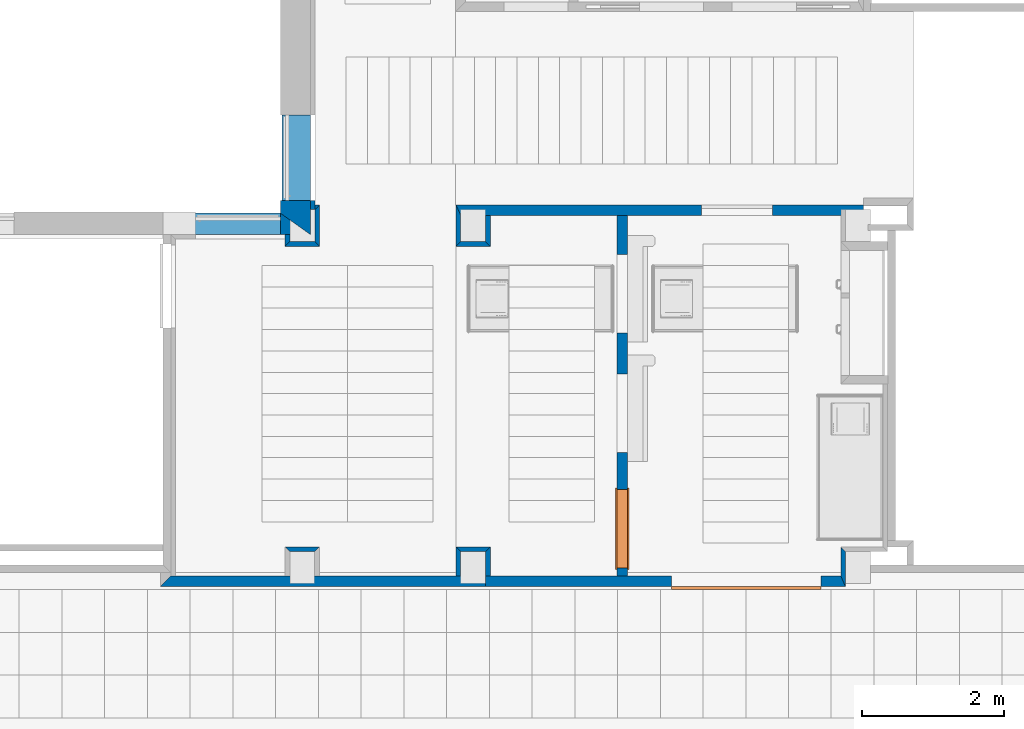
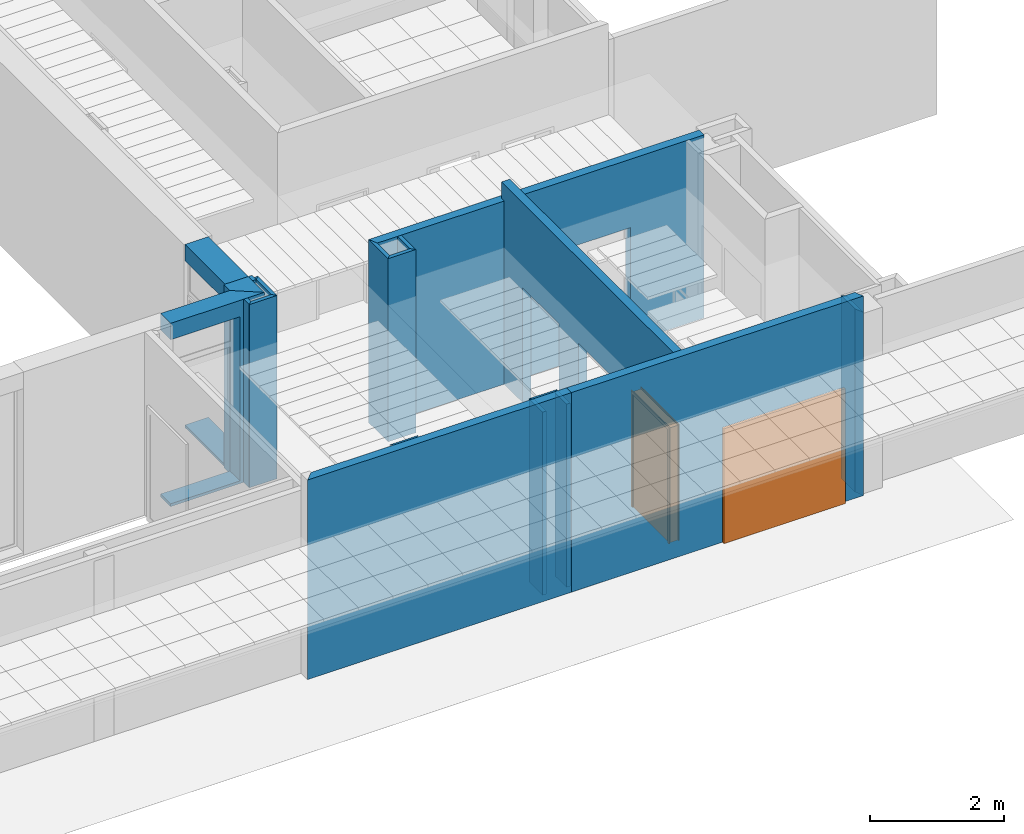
# One storey, part 41 of 60: 20 walls, 2 proxies, 7 openings.
"""IFC2X3 building model written with IfcOpenShell, lengths in millimetres."""

from ifc_helpers import new_model, entity, si_unit, converted_unit, derived_unit, money_unit, direction, frame, origin_with_axes, origin_2d_with_axis, place, context, subcontext, project, spatial, polyline, rectangle, outline, extrude, faceted_brep, source, transform, mapped, material, layer, layer_set, layer_usage, type_object, element, fill, save


model = new_model("IFC2X3")

# Units and contexts
model_context = context("Model", 3, precision=0.01, world=origin_with_axes(), true_north=direction((0.0, 1.0)))
body_context = subcontext(model_context, "Body", "Model", "MODEL_VIEW")
ifc_project = project(units=[si_unit("LENGTHUNIT", "METRE", prefix="MILLI"), si_unit("AREAUNIT", "SQUARE_METRE"), si_unit("VOLUMEUNIT", "CUBIC_METRE"), converted_unit("PLANEANGLEUNIT", "DEGREE", entity("IfcPlaneAngleMeasure", 0.0174532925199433), si_unit("PLANEANGLEUNIT", "RADIAN"), dimensions=[0, 0, 0, 0, 0, 0, 0]), money_unit("USD"), converted_unit("TIMEUNIT", "Year", entity("IfcTimeMeasure", 31557600.0), si_unit("TIMEUNIT", "SECOND"), dimensions=[0, 0, 1, 0, 0, 0, 0]), si_unit("MASSUNIT", "GRAM", prefix="KILO"), si_unit("THERMODYNAMICTEMPERATUREUNIT", "DEGREE_CELSIUS"), si_unit("LUMINOUSINTENSITYUNIT", "LUMEN"), si_unit("ENERGYUNIT", "JOULE", prefix="MEGA"), derived_unit("THERMALCONDUCTANCEUNIT", [(si_unit("POWERUNIT", "WATT"), 1), (si_unit("LENGTHUNIT", "METRE"), -1), (si_unit("THERMODYNAMICTEMPERATUREUNIT", "KELVIN"), -1)]), derived_unit("SPECIFICHEATCAPACITYUNIT", [(si_unit("ENERGYUNIT", "JOULE"), 1), (si_unit("MASSUNIT", "GRAM", prefix="KILO"), -1), (si_unit("THERMODYNAMICTEMPERATUREUNIT", "KELVIN"), -1)]), derived_unit("MASSDENSITYUNIT", [(si_unit("MASSUNIT", "GRAM", prefix="KILO"), 1), (si_unit("VOLUMEUNIT", "CUBIC_METRE"), -1)])], contexts=[model_context])

# Site, building, storey
site_placement = place(None, origin_with_axes())
site = spatial("IfcSite", under=ifc_project, at=site_placement, Name="Sitio", CompositionType="ELEMENT")
building_placement = place(site_placement, origin_with_axes())
building = spatial("IfcBuilding", under=site, at=building_placement, Name="Construcción", CompositionType="ELEMENT")
storey_placement = place(building_placement, frame((0.0, 0.0, 3650.0), z_axis=(0.0, 0.0, 1.0), x_axis=(1.0, 0.0, 0.0)))
storey = spatial("IfcBuildingStorey", under=building, at=storey_placement, Name="PLANTA 2ª", CompositionType="ELEMENT", Elevation=3650.0)

# Wall, opening
ifc_material_1 = material(Name="ARQ_AM246_Arrebossat_De_Guix")
ifc_layer_1 = layer(ifc_material_1, 20.0, ventilated="UNKNOWN")
ifc_material_2 = material(Name="ARQ_CE217_Gero")
ifc_layer_2 = layer(ifc_material_2, 110.0, ventilated="UNKNOWN")
ifc_material_3 = material(Name="ARQ_AI031_Aillament_Poliestireno expandido EPS")
ifc_layer_3 = layer(ifc_material_3, 100.0, ventilated="UNKNOWN")
ifc_material_4 = material(Name="ARQ_CE218_Ceramic")
ifc_layer_4 = layer(ifc_material_4, 50.0, ventilated="UNKNOWN")
ifc_layer_5 = layer(ifc_material_1, 20.0, ventilated="UNKNOWN")
ifc_layer_set_1 = layer_set([ifc_layer_1, ifc_layer_2, ifc_layer_3, ifc_layer_4, ifc_layer_5], Name="façana pati CR3 (ampit)")
ifc_layer_usage_1 = layer_usage(ifc_layer_set_1, "AXIS2", "POSITIVE", -300.0000000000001)
wall_type_1 = type_object("IfcWallType", Name="façana pati CR3 (ampit) 300", PredefinedType="NOTDEFINED")
wall_1_placement = place(storey_placement, frame((-1681.109004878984, -12338.97582371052, 0.0), z_axis=(0.0, 0.0, 1.0), x_axis=(-1.0, 0.0, 0.0)))
wall_1 = element("IfcWallStandardCase", 1, at=wall_1_placement, inside=storey, type_object=wall_type_1, material=ifc_layer_usage_1, Name="MS-201", context=body_context, shape_type="SweptSolid", body=[
    extrude(outline(polyline([(419.9999999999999, -300.0000000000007), (1620.000000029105, -300.0000000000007), (1620.000000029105, 0.0), (0.0, 0.0), (419.9999999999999, -300.0000000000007)])), origin_with_axes(), (0.0, 0.0, 1.0), 3350.0),
])
opening_1_placement = place(wall_1_placement, frame((1020.000000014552, 0.0, 49.99999999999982), z_axis=(0.0, 0.0, 1.0), x_axis=(1.0, 0.0, 0.0)))
element("IfcOpeningElement", 2, at=opening_1_placement, cuts=wall_1, Name="F01", context=body_context, shape_type="SweptSolid", body=[
    extrude(rectangle(XDim=1200.000000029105, YDim=3000.0, at=origin_2d_with_axis()), frame((0.0, -250.0, 1500.0), z_axis=(0.0, -1.0, 0.0), x_axis=(-1.0, 0.0, 0.0)), (0.0, 0.0, -1.0), 550.0),
    extrude(rectangle(XDim=1200.000000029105, YDim=3000.0, at=origin_2d_with_axis()), frame((0.0, -250.0, 1500.0), z_axis=(0.0, 1.0, 0.0), x_axis=(-1.0, 0.0, 0.0)), (0.0, 0.0, -1.0), 350.0000000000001),
])

# Wall
ifc_layer_6 = layer(ifc_material_2, 150.0, ventilated="UNKNOWN")
ifc_layer_7 = layer(ifc_material_3, 180.0, ventilated="UNKNOWN")
ifc_layer_8 = layer(ifc_material_4, 80.0, ventilated="UNKNOWN")
ifc_layer_9 = layer(ifc_material_1, 10.0, ventilated="UNKNOWN")
ifc_layer_set_2 = layer_set([ifc_layer_6, ifc_layer_7, ifc_layer_8, ifc_layer_9], Name="façana pati CR1")
ifc_layer_usage_2 = layer_usage(ifc_layer_set_2, "AXIS2", "POSITIVE", -420.0)
wall_type_2 = type_object("IfcWallType", Name="façana pati CR1 420", PredefinedType="NOTDEFINED")
wall_2_placement = place(storey_placement, frame((-1681.109004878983, -11858.97582371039, 0.0), z_axis=(0.0, 0.0, 1.0), x_axis=(0.0, -1.0, 0.0)))
element("IfcWallStandardCase", 3, at=wall_2_placement, inside=storey, type_object=wall_type_2, material=ifc_layer_usage_2, Name="MS-200", context=body_context, shape_type="SweptSolid", body=[
    extrude(outline(polyline([(0.0, -420.0000000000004), (180.0000000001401, -419.9999999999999), (480.000000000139, 0.0), (0.0, 0.0), (0.0, -420.0000000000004)])), origin_with_axes(), (0.0, 0.0, 1.0), 3350.0),
])

# Wall, opening
ifc_layer_10 = layer(ifc_material_1, 10.0, ventilated="UNKNOWN")
ifc_layer_11 = layer(ifc_material_2, 150.0, ventilated="UNKNOWN")
ifc_layer_12 = layer(ifc_material_3, 150.0, ventilated="UNKNOWN")
ifc_layer_13 = layer(ifc_material_4, 80.0, ventilated="UNKNOWN")
ifc_layer_14 = layer(ifc_material_1, 10.0, ventilated="UNKNOWN")
ifc_layer_set_3 = layer_set([ifc_layer_10, ifc_layer_11, ifc_layer_12, ifc_layer_13, ifc_layer_14], Name="façana pati CR1 (ampit)")
ifc_layer_usage_3 = layer_usage(ifc_layer_set_3, "AXIS2", "POSITIVE", -400.0)
wall_type_3 = type_object("IfcWallType", Name="façana pati CR1 (ampit) 400", PredefinedType="NOTDEFINED")
wall_3_placement = place(storey_placement, frame((-1681.109004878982, -10658.9758237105, 0.0), z_axis=(0.0, 0.0, 1.0), x_axis=(0.0, -1.0, 0.0)))
wall_3 = element("IfcWallStandardCase", 4, at=wall_3_placement, inside=storey, type_object=wall_type_3, material=ifc_layer_usage_3, Name="MS-199", context=body_context, shape_type="SweptSolid", body=[
    extrude(outline(polyline([(0.0, -399.9999999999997), (1199.999999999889, -400.0000000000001), (1199.999999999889, 0.0), (0.0, 0.0), (0.0, -399.9999999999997)])), origin_with_axes(), (0.0, 0.0, 1.0), 3350.0),
])
opening_2_placement = place(wall_3_placement, frame((599.9999999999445, 0.0, 49.99999999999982), z_axis=(0.0, 0.0, 1.0), x_axis=(1.0, 0.0, 0.0)))
element("IfcOpeningElement", 5, at=opening_2_placement, cuts=wall_3, Name="F01", context=body_context, shape_type="SweptSolid", body=[
    extrude(rectangle(XDim=1199.999999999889, YDim=3000.0, at=origin_2d_with_axis()), frame((0.0, -350.0000000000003, 1500.0), z_axis=(0.0, -1.0, 0.0), x_axis=(-1.0, 0.0, 0.0)), (0.0, 0.0, -1.0), 750.0),
    extrude(rectangle(XDim=1199.999999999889, YDim=3000.0, at=origin_2d_with_axis()), frame((0.0, -350.0000000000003, 1500.0), z_axis=(0.0, 1.0, 0.0), x_axis=(-1.0, 0.0, 0.0)), (0.0, 0.0, -1.0), 450.0),
])

# Walls
ifc_material_5 = material(Name="ARQ_FU093_Panellat_HPL")
ifc_layer_15 = layer(ifc_material_5, 6.0, ventilated="UNKNOWN")
ifc_material_6 = material(Name="ARQ_EN271_Camara_Aire")
ifc_layer_16 = layer(ifc_material_6, 6.0, ventilated="UNKNOWN")
ifc_material_7 = material(Name="Panel de Yeso Laminado")
ifc_layer_17 = layer(ifc_material_7, 13.0, ventilated="UNKNOWN")
ifc_material_8 = material(Name="ARQ_AI033_Aillament_Llana_De_Roca")
ifc_layer_18 = layer(ifc_material_8, 40.0, ventilated="UNKNOWN")
ifc_layer_set_4 = layer_set([ifc_layer_15, ifc_layer_16, ifc_layer_17, ifc_layer_18], Name="Pladur Tras 40 / 1N +HPL")
ifc_layer_usage_4 = layer_usage(ifc_layer_set_4, "AXIS2", "POSITIVE", 0.0)
wall_type_4 = type_object("IfcWallType", Name="Pladur Tras 40 / 1N +HPL 65", PredefinedType="NOTDEFINED")
wall_4_placement = place(storey_placement, frame((-1552.894145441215, -12503.97598839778, 0.0), z_axis=(0.0, 0.0, 1.0), x_axis=(0.0, 1.0, 0.0)))
element("IfcWallStandardCase", 6, at=wall_4_placement, inside=storey, type_object=wall_type_4, material=ifc_layer_usage_4, Name="MS-212", context=body_context, shape_type="SweptSolid", body=[
    extrude(outline(polyline([(0.0, 0.0), (580.0020821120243, 0.0), (515.0020821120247, 64.99999999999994), (64.9999999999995, 64.99999999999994), (0.0, 0.0)])), origin_with_axes(), (0.0, 0.0, 1.0), 3350.0),
])
ifc_layer_usage_5 = layer_usage(ifc_layer_set_4, "AXIS2", "POSITIVE", 0.0)
wall_5_placement = place(storey_placement, frame((-1616.109004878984, -11988.97582324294, 0.0), z_axis=(0.0, 0.0, 1.0), x_axis=(0.0, 1.0, 0.0)))
element("IfcWallStandardCase", 7, at=wall_5_placement, inside=storey, type_object=wall_type_4, material=ifc_layer_usage_5, Name="MS-212", context=body_context, shape_type="SweptSolid", body=[
    extrude(outline(polyline([(0.0, 0.0), (129.9999995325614, 0.0), (129.9999995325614, 64.99999999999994), (0.0, 64.99999999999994), (0.0, 0.0)])), origin_with_axes(), (0.0, 0.0, 1.0), 3350.0),
])
ifc_layer_usage_6 = layer_usage(ifc_layer_set_4, "AXIS2", "POSITIVE", 0.0)
wall_6_placement = place(storey_placement, frame((-1552.894145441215, -11923.97390628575, 0.0), z_axis=(0.0, 0.0, 1.0), x_axis=(-1.0, 0.0, 0.0)))
element("IfcWallStandardCase", 8, at=wall_6_placement, inside=storey, type_object=wall_type_4, material=ifc_layer_usage_6, Name="MS-212", context=body_context, shape_type="SweptSolid", body=[
    extrude(outline(polyline([(63.2148594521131, 64.9999999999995), (0.0, 0.0), (63.2148594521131, 0.0), (63.2148594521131, 64.9999999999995)])), origin_with_axes(), (0.0, 0.0, 1.0), 3350.0),
])
ifc_layer_usage_7 = layer_usage(ifc_layer_set_4, "AXIS2", "POSITIVE", -65.0)
wall_7_placement = place(storey_placement, frame((778.891051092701, -17276.97565901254, 0.0), z_axis=(0.0, 0.0, 1.0), x_axis=(0.0, 1.0, 0.0)))
element("IfcWallStandardCase", 9, at=wall_7_placement, inside=storey, type_object=wall_type_4, material=ifc_layer_usage_7, Name="MS-226", context=body_context, shape_type="SweptSolid", body=[
    extrude(outline(polyline([(146.0000000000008, -64.99999999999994), (553.0000006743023, -64.99999999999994), (488.0000006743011, 0.0), (146.0000000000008, 0.0), (146.0000000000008, -64.99999999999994)])), origin_with_axes(), (0.0, 0.0, 1.0), 3350.0),
])
ifc_layer_usage_8 = layer_usage(ifc_layer_set_4, "AXIS2", "POSITIVE", -65.0)
wall_8_placement = place(storey_placement, frame((428.8909985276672, -16788.97565833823, 0.0), z_axis=(0.0, 0.0, 1.0), x_axis=(0.0, -1.0, 0.0)))
element("IfcWallStandardCase", 10, at=wall_8_placement, inside=storey, type_object=wall_type_4, material=ifc_layer_usage_8, Name="MS-228", context=body_context, shape_type="SweptSolid", body=[
    extrude(outline(polyline([(-65.00000000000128, -65.0), (342.0000006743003, -65.0), (342.0000006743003, 0.0), (0.0, 0.0), (-65.00000000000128, -65.0)])), origin_with_axes(), (0.0, 0.0, 1.0), 3350.0),
])
ifc_layer_usage_9 = layer_usage(ifc_layer_set_4, "AXIS2", "POSITIVE", -65.0)
wall_9_placement = place(storey_placement, frame((778.891051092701, -16788.97565833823, 0.0), z_axis=(0.0, 0.0, 1.0), x_axis=(-1.0, 0.0, 0.0)))
element("IfcWallStandardCase", 11, at=wall_9_placement, inside=storey, type_object=wall_type_4, material=ifc_layer_usage_9, Name="MS-227", context=body_context, shape_type="SweptSolid", body=[
    extrude(outline(polyline([(-64.99999999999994, -65.00000000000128), (415.0000525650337, -65.00000000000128), (350.0000525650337, 0.0), (0.0, 0.0), (-64.99999999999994, -65.00000000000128)])), origin_with_axes(), (0.0, 0.0, 1.0), 3350.0),
])
ifc_layer_usage_10 = layer_usage(ifc_layer_set_4, "AXIS2", "POSITIVE", 0.0)
wall_10_placement = place(storey_placement, frame((-2036.109006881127, -12338.97582371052, 0.0), z_axis=(0.0, 0.0, 1.0), x_axis=(0.0, -1.0, 0.0)))
element("IfcWallStandardCase", 12, at=wall_10_placement, inside=storey, type_object=wall_type_4, material=ifc_layer_usage_10, Name="MS-212", context=body_context, shape_type="SweptSolid", body=[
    extrude(outline(polyline([(0.0, 0.0), (165.000164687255, 0.0), (100.0001646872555, 64.99999999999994), (0.0, 64.99999999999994), (0.0, 0.0)])), origin_with_axes(), (0.0, 0.0, 1.0), 3350.0),
])
ifc_layer_usage_11 = layer_usage(ifc_layer_set_4, "AXIS2", "POSITIVE", 0.0)
wall_11_placement = place(storey_placement, frame((-2036.109006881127, -12503.97598839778, 0.0), z_axis=(0.0, 0.0, 1.0), x_axis=(1.0, 0.0, 0.0)))
element("IfcWallStandardCase", 13, at=wall_11_placement, inside=storey, type_object=wall_type_4, material=ifc_layer_usage_11, Name="MS-212", context=body_context, shape_type="SweptSolid", body=[
    extrude(outline(polyline([(0.0, 0.0), (483.2148614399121, 0.0), (418.2148614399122, 64.9999999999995), (64.99999999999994, 64.9999999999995), (0.0, 0.0)])), origin_with_axes(), (0.0, 0.0, 1.0), 3350.0),
])
ifc_layer_usage_12 = layer_usage(ifc_layer_set_4, "AXIS2", "POSITIVE", -65.0)
wall_12_placement = place(storey_placement, frame((428.8909950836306, -12069.97582371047, 0.0), z_axis=(0.0, 0.0, 1.0), x_axis=(0.0, -1.0, 0.0)))
element("IfcWallStandardCase", 14, at=wall_12_placement, inside=storey, type_object=wall_type_4, material=ifc_layer_usage_12, Name="MS-226", context=body_context, shape_type="SweptSolid", body=[
    extrude(outline(polyline([(-146.0000000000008, -65.0), (433.9999999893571, -65.0), (368.9999999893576, 0.0), (0.0, 0.0), (-146.0000000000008, -65.0)])), origin_with_axes(), (0.0, 0.0, 1.0), 3350.0),
])
ifc_layer_usage_13 = layer_usage(ifc_layer_set_4, "AXIS2", "POSITIVE", -65.0)
wall_13_placement = place(storey_placement, frame((428.8909950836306, -12438.97582369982, 0.0), z_axis=(0.0, 0.0, 1.0), x_axis=(1.0, 0.0, 0.0)))
element("IfcWallStandardCase", 15, at=wall_13_placement, inside=storey, type_object=wall_type_4, material=ifc_layer_usage_13, Name="MS-227", context=body_context, shape_type="SweptSolid", body=[
    extrude(outline(polyline([(-65.0, -64.9999999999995), (415.0000525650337, -64.9999999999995), (350.0000525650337, 0.0), (0.0, 0.0), (-65.0, -64.9999999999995)])), origin_with_axes(), (0.0, 0.0, 1.0), 3350.0),
])
ifc_layer_usage_14 = layer_usage(ifc_layer_set_4, "AXIS2", "POSITIVE", -65.0)
wall_14_placement = place(storey_placement, frame((778.8910476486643, -12438.97582369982, 0.0), z_axis=(0.0, 0.0, 1.0), x_axis=(0.0, 1.0, 0.0)))
element("IfcWallStandardCase", 16, at=wall_14_placement, inside=storey, type_object=wall_type_4, material=ifc_layer_usage_14, Name="MS-228", context=body_context, shape_type="SweptSolid", body=[
    extrude(outline(polyline([(-64.9999999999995, -64.99999999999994), (368.9999999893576, -64.99999999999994), (368.9999999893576, 0.0), (0.0, 0.0), (-64.9999999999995, -64.99999999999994)])), origin_with_axes(), (0.0, 0.0, 1.0), 3350.0),
])
ifc_layer_usage_15 = layer_usage(ifc_layer_set_4, "AXIS2", "POSITIVE", -65.0)
wall_15_placement = place(storey_placement, frame((-1621.109001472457, -16788.97582240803, 0.0), z_axis=(0.0, 0.0, 1.0), x_axis=(-1.0, 0.0, 0.0)))
element("IfcWallStandardCase", 17, at=wall_15_placement, inside=storey, type_object=wall_type_4, material=ifc_layer_usage_15, Name="MS-227", context=body_context, shape_type="SweptSolid", body=[
    extrude(outline(polyline([(-64.99999999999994, -65.00000000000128), (415.0000525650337, -65.00000000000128), (350.0000525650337, 0.0), (0.0, 0.0), (-64.99999999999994, -65.00000000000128)])), origin_with_axes(), (0.0, 0.0, 1.0), 3350.0),
])
ifc_layer_usage_16 = layer_usage(ifc_layer_set_4, "AXIS2", "POSITIVE", -65.0)
wall_16_placement = place(storey_placement, frame((5828.891047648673, -16788.97565833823, 0.0), z_axis=(0.0, 0.0, 1.0), x_axis=(0.0, -1.0, 0.0)))
element("IfcWallStandardCase", 18, at=wall_16_placement, inside=storey, type_object=wall_type_4, material=ifc_layer_usage_16, Name="MS-228", context=body_context, shape_type="SweptSolid", body=[
    extrude(outline(polyline([(-65.00000000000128, -65.0000000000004), (342.0000006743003, -65.0000000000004), (488.0000006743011, 0.0), (0.0, 0.0), (-65.00000000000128, -65.0000000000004)])), origin_with_axes(), (0.0, 0.0, 1.0), 3350.0),
])

# Wall, openings, proxy
ifc_layer_19 = layer(ifc_material_5, 6.0, ventilated="UNKNOWN")
ifc_layer_20 = layer(ifc_material_6, 6.0, ventilated="UNKNOWN")
ifc_layer_21 = layer(ifc_material_7, 13.0, ventilated="UNKNOWN")
ifc_layer_22 = layer(ifc_material_7, 13.0, ventilated="UNKNOWN")
ifc_layer_23 = layer(ifc_material_8, 70.0, ventilated="UNKNOWN")
ifc_layer_24 = layer(ifc_material_7, 13.0, ventilated="UNKNOWN")
ifc_layer_25 = layer(ifc_material_7, 13.0, ventilated="UNKNOWN")
ifc_layer_26 = layer(ifc_material_6, 6.0, ventilated="UNKNOWN")
ifc_layer_27 = layer(ifc_material_5, 6.0, ventilated="UNKNOWN")
ifc_layer_set_5 = layer_set([ifc_layer_19, ifc_layer_20, ifc_layer_21, ifc_layer_22, ifc_layer_23, ifc_layer_24, ifc_layer_25, ifc_layer_26, ifc_layer_27], Name="CR Pladur 70 HPL 2 cares")
ifc_layer_usage_17 = layer_usage(ifc_layer_set_5, "AXIS2", "POSITIVE", -146.0)
wall_type_5 = type_object("IfcWallType", Name="CR Pladur 70 HPL 2 cares 146", PredefinedType="NOTDEFINED")
wall_17_placement = place(storey_placement, frame((2622.912972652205, -17276.97565901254, 0.0), z_axis=(0.0, 0.0, 1.0), x_axis=(0.0, 1.0, 0.0)))
wall_17 = element("IfcWallStandardCase", 19, at=wall_17_placement, inside=storey, type_object=wall_type_5, material=ifc_layer_usage_17, Name="MS-212", context=body_context, shape_type="SweptSolid", body=[
    extrude(outline(polyline([(146.0000000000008, -145.9999999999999), (5288.0, -145.9999999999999), (5288.0, 0.0), (146.0000000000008, 0.0), (146.0000000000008, -145.9999999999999)])), origin_with_axes(), (0.0, 0.0, 1.0), 3650.0),
])
opening_3_placement = place(wall_17_placement, frame((4107.83456292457, 0.0, 0.0), z_axis=(0.0, 0.0, 1.0), x_axis=(1.0, 0.0, 0.0)))
element("IfcOpeningElement", 20, at=opening_3_placement, cuts=wall_17, Name="P- Transfer", context=body_context, shape_type="SweptSolid", body=[
    extrude(rectangle(XDim=1100.000000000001, YDim=2100.0, at=origin_2d_with_axis()), frame((0.0, -145.9999999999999, 1050.0), z_axis=(0.0, -1.0, 0.0), x_axis=(1.0, 0.0, 0.0)), (0.0, 0.0, -1.0), 438.0000000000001),
])
opening_4_placement = place(wall_17_placement, frame((809.4995115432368, 0.0, 100.0000000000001), z_axis=(0.0, 0.0, 1.0), x_axis=(1.0, 0.0, 0.0)))
opening_4 = element("IfcOpeningElement", 21, at=opening_4_placement, cuts=wall_17, Name="P-03", context=body_context, shape_type="SweptSolid", body=[
    extrude(rectangle(XDim=1100.000000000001, YDim=2100.0, at=origin_2d_with_axis()), frame((0.0, -145.9999999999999, 1050.0), z_axis=(0.0, -1.0, 0.0), x_axis=(-1.0, 0.0, 0.0)), (0.0, 0.0, -1.0), 438.0000000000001),
    extrude(rectangle(XDim=1143.999999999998, YDim=2122.0, at=origin_2d_with_axis()), frame((0.0, -145.9999999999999, 1061.0), z_axis=(0.0, -1.0, 0.0), x_axis=(-1.0, 0.0, 0.0)), (0.0, 0.0, 1.0), 146.0),
    extrude(rectangle(XDim=1143.999999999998, YDim=2122.0, at=origin_2d_with_axis()), frame((0.0, 0.0, 1061.0), z_axis=(0.0, 1.0, 0.0), x_axis=(-1.0, 0.0, 0.0)), (0.0, 0.0, 1.0), 146.0),
])
opening_5_placement = place(wall_17_placement, frame((2430.715045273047, 0.0, 0.0), z_axis=(0.0, 0.0, 1.0), x_axis=(1.0, 0.0, 0.0)))
element("IfcOpeningElement", 22, at=opening_5_placement, cuts=wall_17, Name="P- Transfer", context=body_context, shape_type="SweptSolid", body=[
    extrude(rectangle(XDim=1100.000000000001, YDim=2100.0, at=origin_2d_with_axis()), frame((0.0, -145.9999999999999, 1050.0), z_axis=(0.0, -1.0, 0.0), x_axis=(1.0, 0.0, 0.0)), (0.0, 0.0, -1.0), 438.0000000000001),
])
building_element_proxy_type_1 = type_object("IfcBuildingElementProxyType", Name="Puerta 27", PredefinedType="NOTDEFINED")
shared_shape = source(origin_with_axes(), body_context, "Body", "Brep", [
    faceted_brep([(572.0000000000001, -165.0, 0.0), (522.0, -165.0, 0.0), (522.0, -146.0, 0.0), (572.0000000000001, -146.0, 0.0), (572.0000000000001, -165.0000000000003, 2122.0), (522.0, -165.0000000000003, 2072.0), (522.0, -146.0000000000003, 2072.0), (572.0000000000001, -146.0000000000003, 2122.0)], [[[0, 1, 2, 3]], [[0, 4, 5, 1]], [[1, 5, 6, 2]], [[3, 2, 6, 7]], [[4, 0, 3, 7]], [[5, 4, 7, 6]]]),
    faceted_brep([(-572.0000000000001, -165.0000000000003, 2122.0), (-522.0, -165.0000000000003, 2072.0), (-522.0, -146.0000000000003, 2072.0), (-572.0000000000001, -146.0000000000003, 2122.0), (-572.0000000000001, -165.0, 0.0), (-522.0, -165.0, 0.0), (-522.0, -146.0, 0.0), (-572.0000000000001, -146.0, 0.0)], [[[0, 1, 2, 3]], [[0, 4, 5, 1]], [[1, 5, 6, 2]], [[3, 2, 6, 7]], [[4, 0, 3, 7]], [[5, 4, 7, 6]]]),
    faceted_brep([(572.0000000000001, -165.0000000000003, 2122.0), (522.0, -165.0000000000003, 2072.0), (522.0, -146.0000000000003, 2072.0), (572.0000000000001, -146.0000000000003, 2122.0), (-572.0000000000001, -165.0000000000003, 2122.0), (-522.0, -165.0000000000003, 2072.0), (-522.0, -146.0000000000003, 2072.0), (-572.0000000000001, -146.0000000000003, 2122.0)], [[[0, 1, 2, 3]], [[0, 4, 5, 1]], [[1, 5, 6, 2]], [[3, 2, 6, 7]], [[4, 0, 3, 7]], [[5, 4, 7, 6]]]),
    faceted_brep([(572.0000000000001, 19.0, 0.0), (572.0000000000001, 0.0, 0.0), (522.0, 0.0, 0.0), (522.0, 19.0, 0.0), (572.0000000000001, 18.99999999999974, 2122.0), (572.0000000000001, 0.0, 2122.0), (522.0, 0.0, 2072.0), (522.0, 18.99999999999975, 2072.0)], [[[0, 1, 2, 3]], [[4, 5, 1, 0]], [[1, 5, 6, 2]], [[3, 2, 6, 7]], [[0, 3, 7, 4]], [[7, 6, 5, 4]]]),
    faceted_brep([(-572.0000000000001, 18.99999999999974, 2122.0), (-572.0000000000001, 0.0, 2122.0), (-522.0, 0.0, 2072.0), (-522.0, 18.99999999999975, 2072.0), (-572.0000000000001, 19.0, 0.0), (-572.0000000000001, 0.0, 0.0), (-522.0, 0.0, 0.0), (-522.0, 19.0, 0.0)], [[[0, 1, 2, 3]], [[4, 5, 1, 0]], [[1, 5, 6, 2]], [[3, 2, 6, 7]], [[0, 3, 7, 4]], [[7, 6, 5, 4]]]),
    faceted_brep([(572.0000000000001, 18.99999999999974, 2122.0), (572.0000000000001, 0.0, 2122.0), (522.0, 0.0, 2072.0), (522.0, 18.99999999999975, 2072.0), (-572.0000000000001, 18.99999999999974, 2122.0), (-572.0000000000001, 0.0, 2122.0), (-522.0, 0.0, 2072.0), (-522.0, 18.99999999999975, 2072.0)], [[[0, 1, 2, 3]], [[4, 5, 1, 0]], [[1, 5, 6, 2]], [[3, 2, 6, 7]], [[0, 3, 7, 4]], [[7, 6, 5, 4]]]),
    faceted_brep([(510.0, -40.0, 0.0), (510.0, -146.0, 0.0), (510.0, -146.0, 2060.0), (510.0, -40.0, 2060.0), (522.0, -40.0, 0.0), (522.0, 0.0, 0.0), (550.0, 0.0, 0.0), (550.0, -146.0, 0.0), (550.0, -146.0, 2060.0), (522.0, -40.0, 2060.0), (550.0, 0.0, 2060.0), (522.0, 0.0, 2060.0)], [[[0, 1, 2, 3]], [[4, 5, 6, 7, 1, 0]], [[1, 7, 8, 2]], [[9, 3, 2, 8, 10, 11]], [[9, 4, 0, 3]], [[11, 5, 4, 9]], [[11, 10, 6, 5]], [[6, 10, 8, 7]]]),
    faceted_brep([(-522.0, -40.0, 2060.0), (-522.0, 0.0, 2060.0), (-550.0, 0.0, 2060.0), (-550.0, -146.0, 2060.0), (-510.0, -146.0, 2060.0), (-510.0, -40.0, 2060.0), (-522.0, -40.0, 0.0), (-522.0, 0.0, 0.0), (-550.0, 0.0, 0.0), (-550.0, -146.0, 0.0), (-510.0, -146.0, 0.0), (-510.0, -40.0, 0.0)], [[[0, 1, 2, 3, 4, 5]], [[0, 6, 7, 1]], [[7, 8, 2, 1]], [[2, 8, 9, 3]], [[3, 9, 10, 4]], [[5, 4, 10, 11]], [[5, 11, 6, 0]], [[6, 11, 10, 9, 8, 7]]]),
    faceted_brep([(522.0, 0.0, 2072.0), (-522.0, 0.0, 2072.0), (-522.0, 0.0, 2060.0), (-550.0, 0.0, 2060.0), (-550.0, 0.0, 2100.0), (550.0, 0.0, 2100.0), (550.0, 0.0, 2060.0), (522.0, 0.0, 2060.0), (522.0, -40.0, 2072.0), (-522.0, -40.0, 2072.0), (-522.0, -40.0, 2060.0), (-510.0, -40.0, 2060.0), (-510.0, -146.0, 2060.0), (-550.0, -146.0, 2060.0), (-550.0, -146.0, 2100.0), (550.0, -146.0, 2100.0), (550.0, -146.0, 2060.0), (522.0, -40.0, 2060.0), (510.0, -146.0, 2060.0), (510.0, -40.0, 2060.0)], [[[0, 1, 2, 3, 4, 5, 6, 7]], [[0, 8, 9, 1]], [[1, 9, 10, 2]], [[10, 11, 12, 13, 3, 2]], [[4, 3, 13, 14]], [[5, 4, 14, 15]], [[6, 5, 15, 16]], [[17, 7, 6, 16, 18, 19]], [[7, 17, 8, 0]], [[10, 9, 8, 17, 19, 11]], [[19, 18, 12, 11]], [[12, 18, 16, 15, 14, 13]]]),
    faceted_brep([(-522.0, 0.0, 0.0), (522.0, 0.0, 0.0), (522.0, -40.0, 0.0), (-522.0, -40.0, 0.0), (-522.0, 0.0, 2072.0), (522.0, 0.0, 2072.0), (522.0, -40.00000000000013, 2072.0), (-522.0, -40.00000000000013, 2072.0)], [[[0, 1, 2, 3]], [[0, 4, 5, 1]], [[1, 5, 6, 2]], [[3, 2, 6, 7]], [[4, 0, 3, 7]], [[5, 4, 7, 6]]]),
])
proxy_1_placement = place(opening_4_placement, frame((-550.0000000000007, 0.0, 0.0), z_axis=(0.0, 0.0, 1.0), x_axis=(1.0, 0.0, 0.0)))
proxy_1 = element("IfcBuildingElementProxy", 23, at=proxy_1_placement, inside=storey, type_object=building_element_proxy_type_1, Name="P-03", context=body_context, shape_type="MappedRepresentation", body=[
    mapped(shared_shape, transform((550.0000000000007, 0.0, 0.0))),
])
fill(opening_4, proxy_1)

# Wall
ifc_layer_usage_18 = layer_usage(ifc_layer_set_5, "AXIS2", "POSITIVE", 0.0)
wall_18_placement = place(storey_placement, frame((-3784.894203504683, -17276.97565901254, 0.0), z_axis=(0.0, 0.0, 1.0), x_axis=(1.0, 0.0, 0.0)))
element("IfcWallStandardCase", 24, at=wall_18_placement, inside=storey, type_object=wall_type_5, material=ifc_layer_usage_18, Name="MS-211", context=body_context, shape_type="SweptSolid", body=[
    extrude(outline(polyline([(0.0, 0.0), (4563.785254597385, 0.0), (4563.785254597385, 146.0000000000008), (145.999999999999, 146.0000000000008), (0.0, 0.0)])), origin_with_axes(), (0.0, 0.0, 1.0), 3650.0),
])

# Wall, opening, proxy
ifc_layer_usage_19 = layer_usage(ifc_layer_set_5, "AXIS2", "POSITIVE", -146.0)
wall_19_placement = place(storey_placement, frame((5828.891047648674, -17276.97565901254, 0.0), z_axis=(0.0, 0.0, 1.0), x_axis=(-1.0, 0.0, 0.0)))
wall_19 = element("IfcWallStandardCase", 25, at=wall_19_placement, inside=storey, type_object=wall_type_5, material=ifc_layer_usage_19, Name="MS-202", context=body_context, shape_type="SweptSolid", body=[
    extrude(outline(polyline([(65.00000000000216, -146.0000000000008), (5049.999996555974, -146.0000000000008), (5049.999996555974, 0.0), (0.0, 0.0), (65.00000000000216, -146.0000000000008)])), origin_with_axes(), (0.0, 0.0, 1.0), 3650.0),
])
opening_6_placement = place(wall_19_placement, frame((1389.054809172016, 0.0, 0.0), z_axis=(0.0, 0.0, 1.0), x_axis=(1.0, 0.0, 0.0)))
opening_6 = element("IfcOpeningElement", 26, at=opening_6_placement, cuts=wall_19, Name="P-05", context=body_context, shape_type="SweptSolid", body=[
    extrude(rectangle(XDim=2099.999999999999, YDim=2100.0, at=origin_2d_with_axis()), frame((0.0, -146.0000000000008, 1050.0), z_axis=(0.0, 1.0, 0.0), x_axis=(1.0, 0.0, 0.0)), (0.0, 0.0, 1.0), 438.0000000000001),
])
building_element_proxy_type_2 = type_object("IfcBuildingElementProxyType", Name="Puerta Corredera Exterior 27", PredefinedType="NOTDEFINED")
proxy_2_placement = place(opening_6_placement, frame((-1050.0, 0.0, 0.0), z_axis=(0.0, 0.0, 1.0), x_axis=(1.0, 0.0, 0.0)))
proxy_2 = element("IfcBuildingElementProxy", 27, at=proxy_2_placement, inside=storey, type_object=building_element_proxy_type_2, Name="P-05", context=body_context, shape_type="Brep", body=[
    faceted_brep([(2100.0, 44.99999999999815, 0.0), (2100.0, 4.999999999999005, 0.0), (0.0, 4.999999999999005, 0.0), (0.0, 45.00000000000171, 0.0), (2100.0, 44.99999999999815, 2100.0), (2100.0, 4.999999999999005, 2100.0), (0.0, 4.999999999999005, 2100.0), (0.0, 45.00000000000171, 2100.0)], [[[0, 1, 2, 3]], [[4, 5, 1, 0]], [[1, 5, 6, 2]], [[3, 2, 6, 7]], [[0, 3, 7, 4]], [[7, 6, 5, 4]]]),
])
fill(opening_6, proxy_2)

# Wall, opening
ifc_layer_usage_20 = layer_usage(ifc_layer_set_5, "AXIS2", "POSITIVE", -146.0)
wall_20_placement = place(storey_placement, frame((6082.105854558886, -12069.97582371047, 0.0), z_axis=(0.0, 0.0, 1.0), x_axis=(-1.0, 0.0, 0.0)))
wall_20 = element("IfcWallStandardCase", 28, at=wall_20_placement, inside=storey, type_object=wall_type_5, material=ifc_layer_usage_20, Name="MS-225", context=body_context, shape_type="SweptSolid", body=[
    extrude(outline(polyline([(0.0, -146.0000000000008), (5718.214859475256, -146.0000000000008), (5653.214859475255, 0.0), (0.0, 0.0), (0.0, -146.0000000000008)])), origin_with_axes(), (0.0, 0.0, 1.0), 3350.0),
])
opening_7_placement = place(wall_20_placement, frame((1774.709989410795, 0.0, 0.0), z_axis=(0.0, 0.0, 1.0), x_axis=(1.0, 0.0, 0.0)))
element("IfcOpeningElement", 29, at=opening_7_placement, cuts=wall_20, Name="F-02", context=body_context, shape_type="SweptSolid", body=[
    extrude(rectangle(XDim=999.9999999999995, YDim=2100.0, at=origin_2d_with_axis()), frame((0.0, 146.0000000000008, 1050.0), z_axis=(0.0, -1.0, 0.0), x_axis=(-1.0, 0.0, 0.0)), (0.0, 0.0, 1.0), 438.0000000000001),
])

save(model, "model.ifc")
